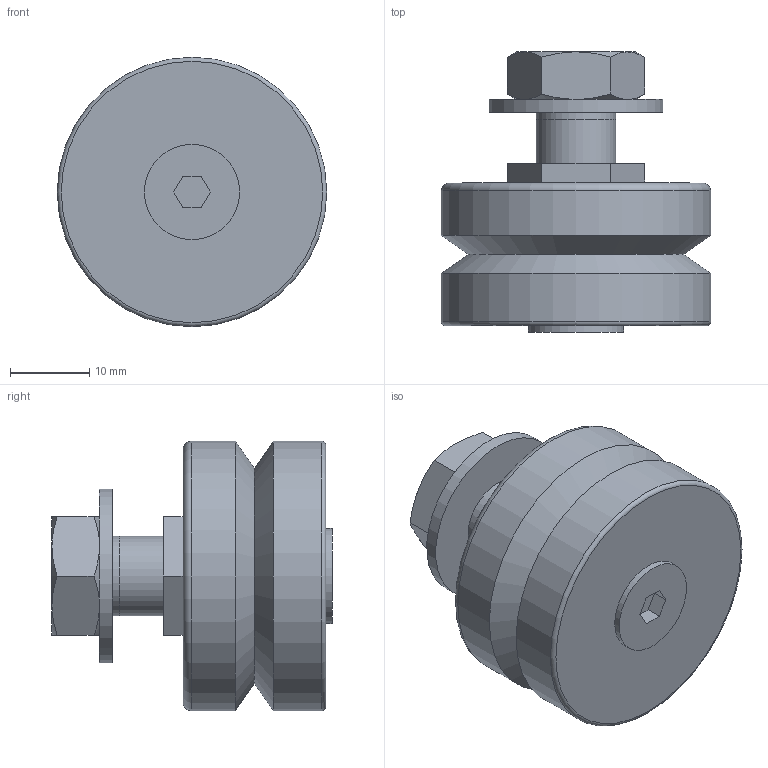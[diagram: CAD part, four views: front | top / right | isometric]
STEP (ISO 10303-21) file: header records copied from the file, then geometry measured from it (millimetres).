
FILE_DESCRIPTION(('STEP AP203'),'1');
FILE_NAME('//192.168.1.1/share/s-4 技術開発/s-4-4_CAD/s-4-4-6_見直し、確認済み/013 修正済み(済)/ジャーナル_TOP/NAS/NAS-34-C.step','2022-03-11T07:39:01',(' '),(' '),'Spatial InterOp 3D',' ',' ');
FILE_SCHEMA(('CONFIG_CONTROL_DESIGN'));
Length unit declared in the file: millimetre
Products named in the file (3): 1; 2; 3
Bounding box: 34 x 35.35 x 34 mm (x, y, z)
Volume: 18409.7 mm3; surface area: 6044.4 mm2
Topology: 3 solids, 3 shells, 52 faces, 112 edges, 69 vertices
Faces by surface type: plane 27, cone 14, cylinder 8, torus 2, sphere 1
Full cylindrical faces by diameter (mm): 8.5 x1, 10 x2, 10.5 x1, 12 x1, 22 x1, 34 x2
Entity records: 1526 total; most frequent: CARTESIAN_POINT 353, DIRECTION 212, ORIENTED_EDGE 192, EDGE_CURVE 96, AXIS2_PLACEMENT_3D 85, EDGE_LOOP 72, VERTEX_POINT 66, FACE_OUTER_BOUND 62
